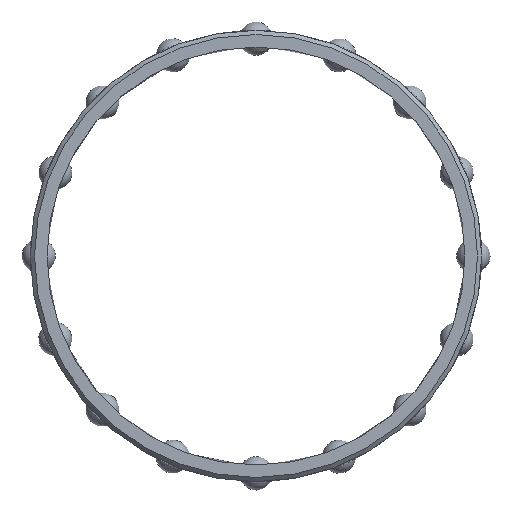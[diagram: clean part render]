
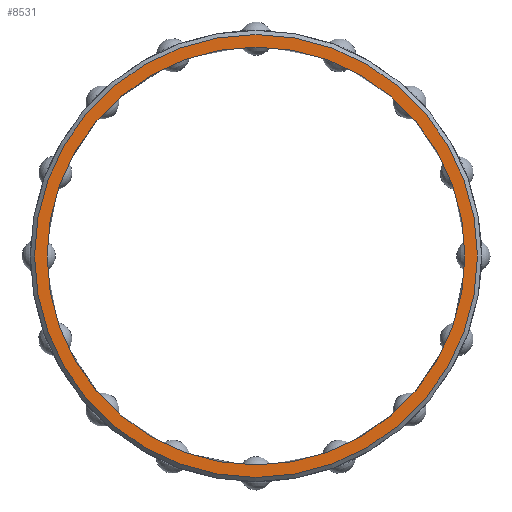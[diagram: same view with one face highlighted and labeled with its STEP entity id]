
A CAD part, front view. The second image highlights one B-rep face of the part: STEP entity #8531.
In plain terms, the highlighted planar face has unit normal (0, -1, 0).
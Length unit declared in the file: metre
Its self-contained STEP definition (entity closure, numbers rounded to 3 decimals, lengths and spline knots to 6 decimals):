
#8531 = ADVANCED_FACE( '', ( #9259, #9260 ), #9261, .T. );
#9259 = FACE_OUTER_BOUND( '', #10345, .T. );
#9260 = FACE_BOUND( '', #10346, .T. );
#9261 = PLANE( '', #10347 );
#10345 = EDGE_LOOP( '', ( #11443 ) );
#10346 = EDGE_LOOP( '', ( #11444 ) );
#10347 = AXIS2_PLACEMENT_3D( '', #11445, #11446, #11447 );
#11443 = ORIENTED_EDGE( '', *, *, #13229, .T. );
#11444 = ORIENTED_EDGE( '', *, *, #13228, .F. );
#11445 = CARTESIAN_POINT( '', ( 0.025, 0., 0. ) );
#11446 = DIRECTION( '', ( 0., -1., 0. ) );
#11447 = DIRECTION( '', ( 0., 0., -1. ) );
#13228 = EDGE_CURVE( '', #13947, #13947, #13948, .T. );
#13229 = EDGE_CURVE( '', #13949, #13949, #13950, .T. );
#13947 = VERTEX_POINT( '', #33239 );
#13948 = CIRCLE( '', #33240, 0.025 );
#13949 = VERTEX_POINT( '', #33241 );
#13950 = CIRCLE( '', #33242, 0.0265 );
#33239 = CARTESIAN_POINT( '', ( 0., 0., -0.025 ) );
#33240 = AXIS2_PLACEMENT_3D( '', #33264, #33265, #33266 );
#33241 = CARTESIAN_POINT( '', ( 0., 0., -0.0265 ) );
#33242 = AXIS2_PLACEMENT_3D( '', #33267, #33268, #33269 );
#33264 = CARTESIAN_POINT( '', ( 0., 0., 0. ) );
#33265 = DIRECTION( '', ( 0., -1., 0. ) );
#33266 = DIRECTION( '', ( 0., 0., -1. ) );
#33267 = CARTESIAN_POINT( '', ( 0., 0., 0. ) );
#33268 = DIRECTION( '', ( 0., -1., 0. ) );
#33269 = DIRECTION( '', ( 0., 0., -1. ) );
